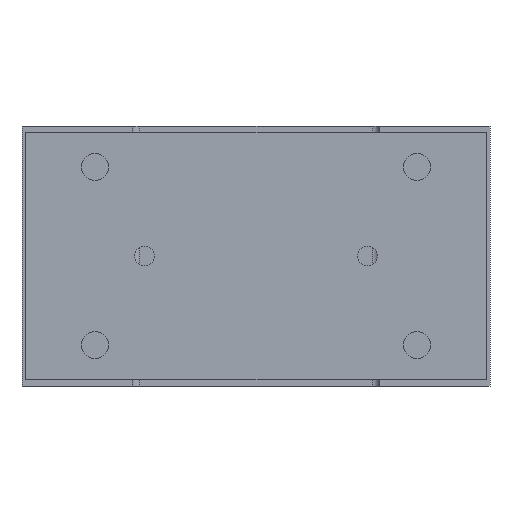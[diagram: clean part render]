
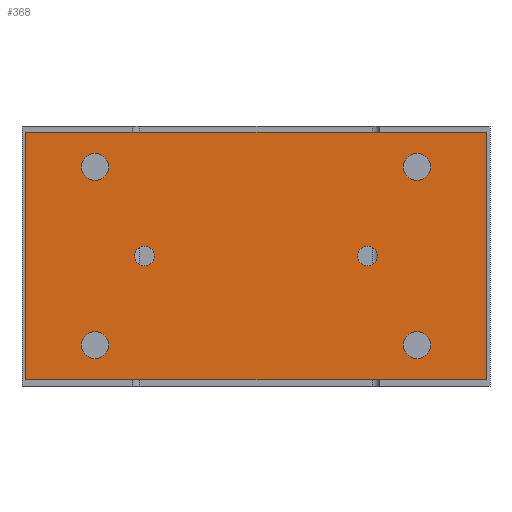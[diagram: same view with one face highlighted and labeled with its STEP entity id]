
A CAD part, left-side view. The second image highlights one B-rep face of the part: STEP entity #368.
In plain terms, the highlighted planar face has unit normal (-1, 0, 0).
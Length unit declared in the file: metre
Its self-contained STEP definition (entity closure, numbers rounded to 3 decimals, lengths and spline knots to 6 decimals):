
#368 = ADVANCED_FACE( '', ( #905, #906, #907, #908, #909, #910, #911 ), #912, .T. );
#905 = FACE_BOUND( '', #1709, .T. );
#906 = FACE_BOUND( '', #1710, .T. );
#907 = FACE_BOUND( '', #1711, .T. );
#908 = FACE_BOUND( '', #1712, .T. );
#909 = FACE_BOUND( '', #1713, .T. );
#910 = FACE_BOUND( '', #1714, .T. );
#911 = FACE_OUTER_BOUND( '', #1715, .T. );
#912 = PLANE( '', #1716 );
#1709 = EDGE_LOOP( '', ( #2752 ) );
#1710 = EDGE_LOOP( '', ( #2753 ) );
#1711 = EDGE_LOOP( '', ( #2754 ) );
#1712 = EDGE_LOOP( '', ( #2755 ) );
#1713 = EDGE_LOOP( '', ( #2756 ) );
#1714 = EDGE_LOOP( '', ( #2757 ) );
#1715 = EDGE_LOOP( '', ( #2758, #2759, #2760, #2761 ) );
#1716 = AXIS2_PLACEMENT_3D( '', #2762, #2763, #2764 );
#2752 = ORIENTED_EDGE( '', *, *, #4059, .F. );
#2753 = ORIENTED_EDGE( '', *, *, #3818, .F. );
#2754 = ORIENTED_EDGE( '', *, *, #4060, .F. );
#2755 = ORIENTED_EDGE( '', *, *, #4061, .F. );
#2756 = ORIENTED_EDGE( '', *, *, #4062, .F. );
#2757 = ORIENTED_EDGE( '', *, *, #4063, .T. );
#2758 = ORIENTED_EDGE( '', *, *, #4064, .T. );
#2759 = ORIENTED_EDGE( '', *, *, #4065, .T. );
#2760 = ORIENTED_EDGE( '', *, *, #4066, .T. );
#2761 = ORIENTED_EDGE( '', *, *, #4054, .T. );
#2762 = CARTESIAN_POINT( '', ( -0.135, 0.093, -0.1025 ) );
#2763 = DIRECTION( '', ( -1., 0., 0. ) );
#2764 = DIRECTION( '', ( 0., 0., -1. ) );
#3818 = EDGE_CURVE( '', #4385, #4385, #4386, .T. );
#4054 = EDGE_CURVE( '', #4775, #4773, #4776, .T. );
#4059 = EDGE_CURVE( '', #4782, #4782, #4783, .T. );
#4060 = EDGE_CURVE( '', #4784, #4784, #4785, .T. );
#4061 = EDGE_CURVE( '', #4786, #4786, #4787, .T. );
#4062 = EDGE_CURVE( '', #4788, #4788, #4789, .T. );
#4063 = EDGE_CURVE( '', #4790, #4790, #4791, .T. );
#4064 = EDGE_CURVE( '', #4773, #4792, #4793, .T. );
#4065 = EDGE_CURVE( '', #4792, #4794, #4795, .T. );
#4066 = EDGE_CURVE( '', #4794, #4775, #4796, .T. );
#4385 = VERTEX_POINT( '', #5220 );
#4386 = CIRCLE( '', #5221, 0.0055 );
#4773 = VERTEX_POINT( '', #5860 );
#4775 = VERTEX_POINT( '', #5863 );
#4776 = LINE( '', #5864, #5865 );
#4782 = VERTEX_POINT( '', #5872 );
#4783 = CIRCLE( '', #5873, 0.0055 );
#4784 = VERTEX_POINT( '', #5874 );
#4785 = CIRCLE( '', #5875, 0.0055 );
#4786 = VERTEX_POINT( '', #5876 );
#4787 = CIRCLE( '', #5877, 0.0055 );
#4788 = VERTEX_POINT( '', #5878 );
#4789 = CIRCLE( '', #5879, 0.004 );
#4790 = VERTEX_POINT( '', #5880 );
#4791 = CIRCLE( '', #5881, 0.004 );
#4792 = VERTEX_POINT( '', #5882 );
#4793 = LINE( '', #5883, #5884 );
#4794 = VERTEX_POINT( '', #5885 );
#4795 = LINE( '', #5886, #5887 );
#4796 = LINE( '', #5888, #5889 );
#5220 = CARTESIAN_POINT( '', ( -0.135, -0.0705, -0.0165 ) );
#5221 = AXIS2_PLACEMENT_3D( '', #6501, #6502, #6503 );
#5860 = CARTESIAN_POINT( '', ( -0.135, 0.093, -0.0025 ) );
#5863 = CARTESIAN_POINT( '', ( -0.135, -0.093, -0.0025 ) );
#5864 = CARTESIAN_POINT( '', ( -0.135, -0.093, -0.0025 ) );
#5865 = VECTOR( '', #6775, 1. );
#5872 = CARTESIAN_POINT( '', ( -0.135, 0.0595, -0.0165 ) );
#5873 = AXIS2_PLACEMENT_3D( '', #6780, #6781, #6782 );
#5874 = CARTESIAN_POINT( '', ( -0.135, 0.0595, -0.0885 ) );
#5875 = AXIS2_PLACEMENT_3D( '', #6783, #6784, #6785 );
#5876 = CARTESIAN_POINT( '', ( -0.135, -0.0705, -0.0885 ) );
#5877 = AXIS2_PLACEMENT_3D( '', #6786, #6787, #6788 );
#5878 = CARTESIAN_POINT( '', ( -0.135, 0.041, -0.0525 ) );
#5879 = AXIS2_PLACEMENT_3D( '', #6789, #6790, #6791 );
#5880 = CARTESIAN_POINT( '', ( -0.135, -0.041, -0.0525 ) );
#5881 = AXIS2_PLACEMENT_3D( '', #6792, #6793, #6794 );
#5882 = CARTESIAN_POINT( '', ( -0.135, 0.093, -0.1025 ) );
#5883 = CARTESIAN_POINT( '', ( -0.135, 0.093, -0.0025 ) );
#5884 = VECTOR( '', #6795, 1. );
#5885 = CARTESIAN_POINT( '', ( -0.135, -0.093, -0.1025 ) );
#5886 = CARTESIAN_POINT( '', ( -0.135, 0.093, -0.1025 ) );
#5887 = VECTOR( '', #6796, 1. );
#5888 = CARTESIAN_POINT( '', ( -0.135, -0.093, -0.1025 ) );
#5889 = VECTOR( '', #6797, 1. );
#6501 = CARTESIAN_POINT( '', ( -0.135, -0.065, -0.0165 ) );
#6502 = DIRECTION( '', ( -1., 0., 0. ) );
#6503 = DIRECTION( '', ( 0., -1., 0. ) );
#6775 = DIRECTION( '', ( 0., 1., 0. ) );
#6780 = CARTESIAN_POINT( '', ( -0.135, 0.065, -0.0165 ) );
#6781 = DIRECTION( '', ( -1., 0., 0. ) );
#6782 = DIRECTION( '', ( 0., -1., 0. ) );
#6783 = CARTESIAN_POINT( '', ( -0.135, 0.065, -0.0885 ) );
#6784 = DIRECTION( '', ( -1., 0., 0. ) );
#6785 = DIRECTION( '', ( 0., -1., 0. ) );
#6786 = CARTESIAN_POINT( '', ( -0.135, -0.065, -0.0885 ) );
#6787 = DIRECTION( '', ( -1., 0., 0. ) );
#6788 = DIRECTION( '', ( 0., -1., 0. ) );
#6789 = CARTESIAN_POINT( '', ( -0.135, 0.045, -0.0525 ) );
#6790 = DIRECTION( '', ( -1., 0., 0. ) );
#6791 = DIRECTION( '', ( 0., -1., 0. ) );
#6792 = CARTESIAN_POINT( '', ( -0.135, -0.045, -0.0525 ) );
#6793 = DIRECTION( '', ( 1., 0., 0. ) );
#6794 = DIRECTION( '', ( 0., 1., 0. ) );
#6795 = DIRECTION( '', ( 0., 0., -1. ) );
#6796 = DIRECTION( '', ( 0., -1., 0. ) );
#6797 = DIRECTION( '', ( 0., 0., 1. ) );
